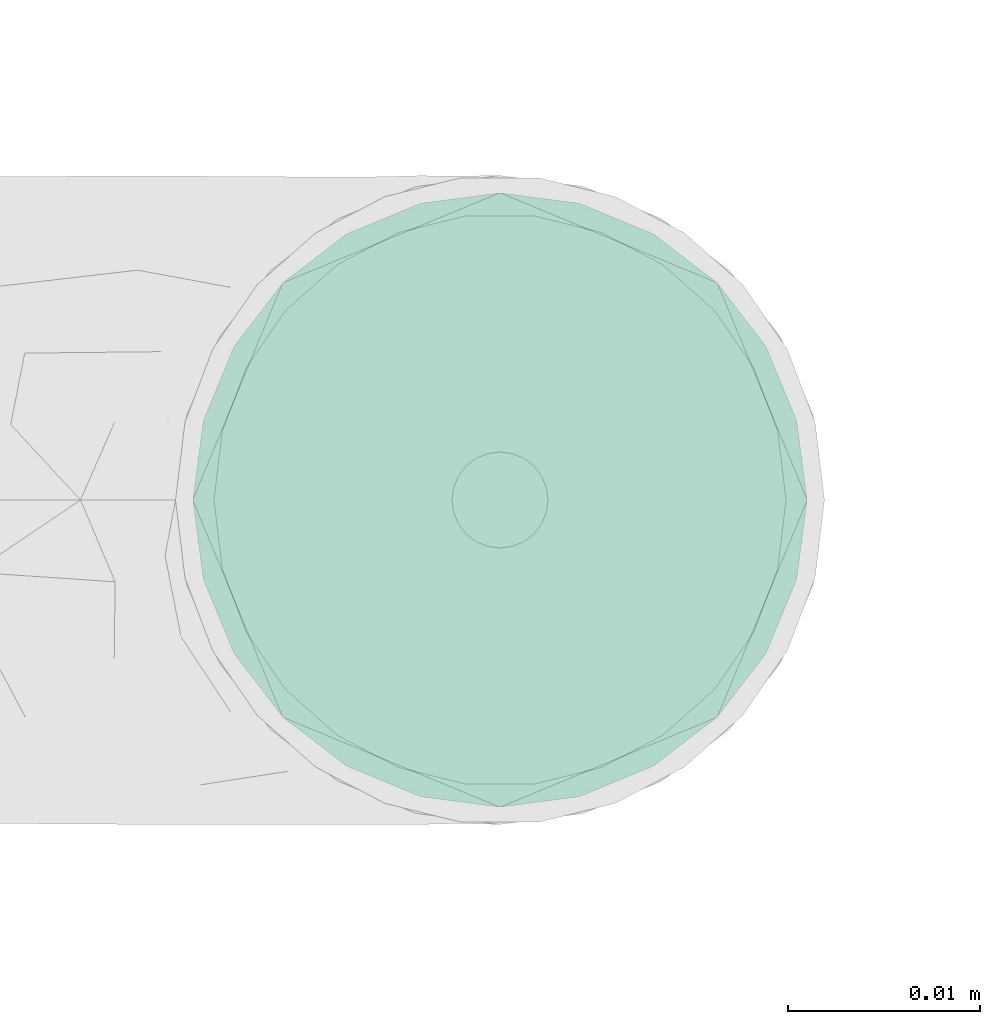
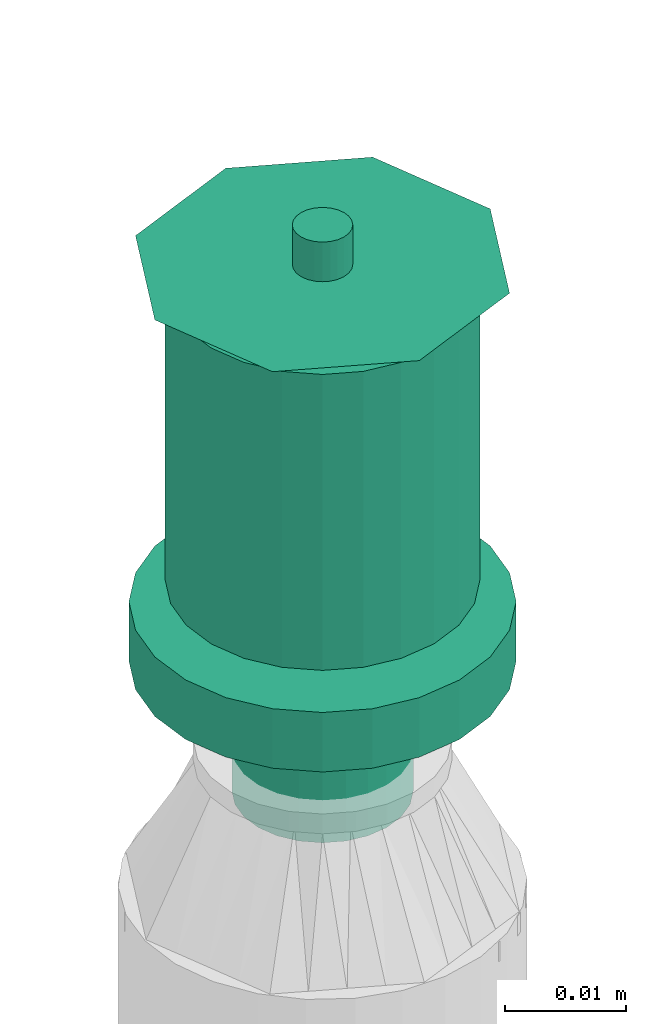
# One storey, part 107 of 157: 1 flow terminal.
"""IFC2X3 building model written with IfcOpenShell, lengths in millimetres."""

from ifc_helpers import new_model, entity, si_unit, converted_unit, derived_unit, direction, frame, origin_with_axes, place, context, subcontext, project, spatial, open_shell, surface_model, source, transform, mapped, type_object, element, save


model = new_model("IFC2X3")

# Units and contexts
model_context = context("Model", 3, precision=0.01, world=frame((0.0, 4.29681676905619e-09, 0.0)), true_north=direction((4.01073788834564e-13, 1.0)))
plan_context = context("Plan", 3, precision=0.01, world=frame((0.0, 4.29681676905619e-09, 0.0)), true_north=direction((4.01073788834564e-13, 1.0)))
body_context = subcontext(model_context, "Body", "Model", "MODEL_VIEW")
ifc_project = project(units=[converted_unit("PLANEANGLEUNIT", "DEGREE", entity("IfcPositiveLengthMeasure", 0.0174532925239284), si_unit("PLANEANGLEUNIT", "RADIAN"), dimensions=[0, 0, 0, 0, 0, 0, 0]), si_unit("AREAUNIT", "SQUARE_METRE"), si_unit("LENGTHUNIT", "METRE", prefix="MILLI"), si_unit("MASSUNIT", "GRAM", prefix="KILO"), si_unit("POWERUNIT", "WATT"), si_unit("PRESSUREUNIT", "PASCAL"), si_unit("FORCEUNIT", "NEWTON", prefix="KILO"), si_unit("ELECTRICCURRENTUNIT", "AMPERE"), si_unit("THERMODYNAMICTEMPERATUREUNIT", "DEGREE_CELSIUS"), si_unit("TIMEUNIT", "SECOND"), si_unit("VOLUMEUNIT", "CUBIC_METRE"), derived_unit("LINEARVELOCITYUNIT", [(si_unit("LENGTHUNIT", "METRE"), 1), (si_unit("TIMEUNIT", "SECOND"), -1)]), derived_unit("VOLUMETRICFLOWRATEUNIT", [(si_unit("VOLUMEUNIT", "CUBIC_METRE"), 1), (si_unit("TIMEUNIT", "SECOND"), -1)]), derived_unit("THERMALTRANSMITTANCEUNIT", [(si_unit("POWERUNIT", "WATT"), 1), (si_unit("THERMODYNAMICTEMPERATUREUNIT", "KELVIN"), -1), (si_unit("AREAUNIT", "SQUARE_METRE"), -1)])], contexts=[model_context, plan_context])

# Site, building, storey
site_placement = place(None, frame((0.0, -4.29681676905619e-09, 0.0), z_axis=(0.0, 0.0, 1.0), x_axis=(1.0, 0.0, 0.0)))
site = spatial("IfcSite", under=ifc_project, at=site_placement, CompositionType="ELEMENT")
building_placement = place(site_placement, frame((0.0, 4.29681676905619e-09, 0.0), z_axis=(0.0, 0.0, 1.0), x_axis=(1.0, 0.0, 0.0)))
building = spatial("IfcBuilding", under=site, at=building_placement, Name="mc-building", CompositionType="ELEMENT")
storey_placement = place(building_placement, frame((0.0, 0.0, 204000.0), z_axis=(0.0, 0.0, 1.0), x_axis=(1.0, 0.0, 0.0)))
storey = spatial("IfcBuildingStorey", under=building, at=storey_placement, Name="Nivå D", CompositionType="ELEMENT", Elevation=204000.0)

# Flow terminal
fire_suppression_terminal_type = type_object("IfcFireSuppressionTerminalType", Name="68DGR-STD-STÅENDE", PredefinedType="NOTDEFINED")
shared_shape = source(origin_with_axes(), body_context, "Body", "SurfaceModel", [
    surface_model("IfcShellBasedSurfaceModel", [(3.36465, -12.55704, 51.0), (6.5, -11.25833, 51.0), (9.19239, -9.19239, 51.0), (12.55704, -3.36465, 51.0), (-11.25833, -6.5, 51.0), (11.25833, -6.5, 51.0), (-13.0, 0.0, 51.0), (0.0, -13.0, 51.0), (-6.5, -11.25833, 51.0), (-3.36465, -12.55704, 51.0), (-9.19239, -9.19239, 51.0), (-12.55704, -3.36465, 51.0), (13.0, 0.0, 51.0), (12.55704, 3.36465, 51.0), (11.25833, 6.5, 51.0), (9.19239, 9.19239, 51.0), (6.5, 11.25833, 51.0), (3.36465, 12.55704, 51.0), (0.0, 13.0, 51.0), (-3.36465, 12.55704, 51.0), (-12.55704, 3.36465, 51.0), (-9.19239, 9.19239, 51.0), (-11.25833, 6.5, 51.0), (-6.5, 11.25833, 51.0), (0.0, 13.0, 21.14766), (3.36465, 12.55704, 21.14766), (6.5, 11.25833, 21.14766), (-3.36465, 12.55704, 21.14766), (9.19239, 9.19239, 21.14766), (11.25833, 6.5, 21.14766), (12.55704, 3.36465, 21.14766), (-12.55704, 3.36465, 21.14766), (-11.25833, -6.5, 21.14766), (-9.19239, 9.19239, 21.14766), (-6.5, 11.25833, 21.14766), (-11.25833, 6.5, 21.14766), (-13.0, 0.0, 21.14766), (12.55704, -3.36465, 21.14766), (9.19239, -9.19239, 21.14766), (11.25833, -6.5, 21.14766), (6.5, -11.25833, 21.14766), (3.36465, -12.55704, 21.14766), (-6.5, -11.25833, 21.14766), (-9.19239, -9.19239, 21.14766), (-12.55704, -3.36465, 21.14766), (0.0, -13.0, 21.14766), (-3.36465, -12.55704, 21.14766), (13.0, 0.0, 21.14766), (7.24444, -1.94114, 0.1), (1.94114, -7.24444, 0.1), (3.75, -6.49519, 0.1), (5.3033, -5.3033, 0.1), (-5.3033, -5.3033, 0.1), (6.49519, -3.75, 0.1), (5.3033, 5.3033, 0.1), (0.0, -7.5, 0.1), (-3.75, -6.49519, 0.1), (-1.94114, -7.24444, 0.1), (-7.24444, -1.94114, 0.1), (-6.49519, -3.75, 0.1), (-7.24444, 1.94114, 0.1), (7.5, 0.0, 0.1), (6.49519, 3.75, 0.1), (-6.49519, 3.75, 0.1), (1.94114, 7.24444, 0.1), (0.0, 7.5, 0.1), (3.75, 6.49519, 0.1), (-7.5, 0.0, 0.1), (-5.3033, 5.3033, 0.1), (-1.94114, 7.24444, 0.1), (-3.75, 6.49519, 0.1), (7.24444, 1.94114, 0.1), (1.94114, 7.24444, -0.1), (-6.49519, 3.75, -0.1), (0.0, 7.5, -0.1), (5.3033, 5.3033, -0.1), (3.75, 6.49519, -0.1), (6.49519, 3.75, -0.1), (7.24444, 1.94114, -0.1), (-1.94114, 7.24444, -0.1), (-5.3033, 5.3033, -0.1), (-3.75, 6.49519, -0.1), (-7.24444, 1.94114, -0.1), (-7.24444, -1.94114, -0.1), (-7.5, 0.0, -0.1), (7.5, 0.0, -0.1), (7.24444, -1.94114, -0.1), (-5.3033, -5.3033, -0.1), (1.94114, -7.24444, -0.1), (6.49519, -3.75, -0.1), (5.3033, -5.3033, -0.1), (3.75, -6.49519, -0.1), (-6.49519, -3.75, -0.1), (-3.75, -6.49519, -0.1), (0.0, -7.5, -0.1), (-1.94114, -7.24444, -0.1), (0.0, -2.5, 51.0), (-2.5, 0.0, 51.0), (0.0, 2.5, 51.0), (2.5, 0.0, 51.0), (0.0, -16.0, 53.0), (11.31371, -11.31371, 53.0), (-11.31371, -11.31371, 53.0), (-16.0, 0.0, 53.0), (16.0, 0.0, 53.0), (11.31371, 11.31371, 53.0), (0.0, 16.0, 53.0), (-11.31371, 11.31371, 53.0), (1.25, -2.16506, 57.0), (0.0, -2.5, 57.0), (0.64705, -2.41481, 57.0), (2.41481, -0.64705, 57.0), (1.76777, -1.76777, 57.0), (-2.41481, -0.64705, 57.0), (-2.5, 0.0, 57.0), (2.16506, -1.25, 57.0), (-1.25, -2.16506, 57.0), (-0.64705, -2.41481, 57.0), (-1.76777, -1.76777, 57.0), (-2.16506, -1.25, 57.0), (2.5, 0.0, 57.0), (2.41481, 0.64705, 57.0), (2.16506, 1.25, 57.0), (1.76777, 1.76777, 57.0), (0.64705, 2.41481, 57.0), (1.25, 2.16506, 57.0), (-1.76777, 1.76777, 57.0), (0.0, 2.5, 57.0), (-2.16506, 1.25, 57.0), (-2.41481, 0.64705, 57.0), (-0.64705, 2.41481, 57.0), (-1.25, 2.16506, 57.0), (1.25, 2.16506, 51.0), (1.76777, 1.76777, 51.0), (1.15, 1.99186, 51.0), (0.59528, 2.22163, 51.0), (0.64705, 2.41481, 51.0), (0.0, 2.3, 51.0), (1.62635, 1.62635, 51.0), (2.41481, 0.64705, 51.0), (2.3, 0.0, 51.0), (2.22163, 0.59528, 51.0), (2.16506, 1.25, 51.0), (1.99186, 1.15, 51.0), (-0.59528, 2.22163, 51.0), (-0.64705, 2.41481, 51.0), (-1.15, 1.99186, 51.0), (-1.76777, 1.76777, 51.0), (-1.25, 2.16506, 51.0), (-1.62635, 1.62635, 51.0), (-1.99186, 1.15, 51.0), (-2.16506, 1.25, 51.0), (-2.22163, 0.59528, 51.0), (-2.41481, 0.64705, 51.0), (-2.3, 0.0, 51.0), (2.41481, -0.64705, 51.0), (2.22163, -0.59528, 51.0), (1.99186, -1.15, 51.0), (2.16506, -1.25, 51.0), (1.62635, -1.62635, 51.0), (1.76777, -1.76777, 51.0), (1.25, -2.16506, 51.0), (1.15, -1.99186, 51.0), (0.59528, -2.22163, 51.0), (0.64705, -2.41481, 51.0), (0.0, -2.3, 51.0), (-2.16506, -1.25, 51.0), (-1.99186, -1.15, 51.0), (-1.76777, -1.76777, 51.0), (-1.62635, -1.62635, 51.0), (-2.41481, -0.64705, 51.0), (-2.22163, -0.59528, 51.0), (-0.59528, -2.22163, 51.0), (-0.64705, -2.41481, 51.0), (-1.15, -1.99186, 51.0), (-1.25, -2.16506, 51.0), (1.62635, -1.62635, 56.8), (1.15, -1.99186, 56.8), (0.59528, -2.22163, 56.8), (0.0, -2.3, 56.8), (2.22163, 0.59528, 56.8), (1.99186, -1.15, 56.8), (2.22163, -0.59528, 56.8), (-0.59528, -2.22163, 56.8), (-1.15, -1.99186, 56.8), (-1.62635, -1.62635, 56.8), (-1.99186, -1.15, 56.8), (-2.22163, -0.59528, 56.8), (-1.99186, 1.15, 56.8), (2.3, 0.0, 56.8), (1.62635, 1.62635, 56.8), (1.99186, 1.15, 56.8), (1.15, 1.99186, 56.8), (0.0, 2.3, 56.8), (0.59528, 2.22163, 56.8), (-2.22163, 0.59528, 56.8), (-2.3, 0.0, 56.8), (-1.15, 1.99186, 56.8), (-0.59528, 2.22163, 56.8), (-1.62635, 1.62635, 56.8), (4.1411, -15.45481, 19.0), (8.0, -13.85641, 19.0), (11.31371, -11.31371, 19.0), (-8.0, -13.85641, 19.0), (15.45481, -4.1411, 19.0), (16.0, 0.0, 19.0), (13.85641, -8.0, 19.0), (0.0, -16.0, 19.0), (-4.1411, -15.45481, 19.0), (-13.85641, -8.0, 19.0), (-11.31371, -11.31371, 19.0), (-15.45481, -4.1411, 19.0), (15.45481, 4.1411, 19.0), (13.85641, 8.0, 19.0), (11.31371, 11.31371, 19.0), (-4.1411, 15.45481, 19.0), (8.0, 13.85641, 19.0), (4.1411, 15.45481, 19.0), (0.0, 16.0, 19.0), (-13.85641, 8.0, 19.0), (-15.45481, 4.1411, 19.0), (-16.0, 0.0, 19.0), (-11.31371, 11.31371, 19.0), (-8.0, 13.85641, 19.0), (0.0, 16.0, 13.0), (4.1411, 15.45481, 13.0), (8.0, 13.85641, 13.0), (-4.1411, 15.45481, 13.0), (11.31371, 11.31371, 13.0), (13.85641, 8.0, 13.0), (15.45481, 4.1411, 13.0), (-15.45481, -4.1411, 13.0), (-11.31371, 11.31371, 13.0), (-8.0, 13.85641, 13.0), (-13.85641, 8.0, 13.0), (-15.45481, 4.1411, 13.0), (-16.0, 0.0, 13.0), (4.1411, -15.45481, 13.0), (16.0, 0.0, 13.0), (15.45481, -4.1411, 13.0), (13.85641, -8.0, 13.0), (11.31371, -11.31371, 13.0), (8.0, -13.85641, 13.0), (-8.0, -13.85641, 13.0), (-13.85641, -8.0, 13.0), (-11.31371, -11.31371, 13.0), (0.0, -16.0, 13.0), (-4.1411, -15.45481, 13.0), (7.24444, -1.94114, 13.0), (1.94114, -7.24444, 13.0), (3.75, -6.49519, 13.0), (5.3033, -5.3033, 13.0), (-5.3033, -5.3033, 13.0), (6.49519, -3.75, 13.0), (5.3033, 5.3033, 13.0), (0.0, -7.5, 13.0), (-3.75, -6.49519, 13.0), (-1.94114, -7.24444, 13.0), (-7.24444, -1.94114, 13.0), (-6.49519, -3.75, 13.0), (-7.24444, 1.94114, 13.0), (7.5, 0.0, 13.0), (6.49519, 3.75, 13.0), (-6.49519, 3.75, 13.0), (1.94114, 7.24444, 13.0), (0.0, 7.5, 13.0), (3.75, 6.49519, 13.0), (-7.5, 0.0, 13.0), (-5.3033, 5.3033, 13.0), (-1.94114, 7.24444, 13.0), (-3.75, 6.49519, 13.0), (7.24444, 1.94114, 13.0), (3.75, 6.49519, 0.0), (5.3033, 5.3033, 0.0), (3.65, 6.32199, 0.0), (1.88938, 7.05126, 0.0), (0.0, 7.3, 0.0), (1.94114, 7.24444, 0.0), (0.0, 7.5, 0.0), (5.16188, 5.16188, 0.0), (7.24444, 1.94114, 0.0), (7.3, 0.0, 0.0), (7.05126, 1.88938, 0.0), (7.5, 0.0, 0.0), (6.49519, 3.75, 0.0), (6.32199, 3.65, 0.0), (-1.88938, 7.05126, 0.0), (-1.94114, 7.24444, 0.0), (-3.65, 6.32199, 0.0), (-5.3033, 5.3033, 0.0), (-3.75, 6.49519, 0.0), (-5.16188, 5.16188, 0.0), (-6.32199, 3.65, 0.0), (-6.49519, 3.75, 0.0), (-7.05126, 1.88938, 0.0), (-7.24444, 1.94114, 0.0), (-7.3, 0.0, 0.0), (-7.5, 0.0, 0.0), (7.24444, -1.94114, 0.0), (7.05126, -1.88938, 0.0), (6.32199, -3.65, 0.0), (6.49519, -3.75, 0.0), (5.16188, -5.16188, 0.0), (5.3033, -5.3033, 0.0), (3.75, -6.49519, 0.0), (3.65, -6.32199, 0.0), (1.88938, -7.05126, 0.0), (1.94114, -7.24444, 0.0), (0.0, -7.3, 0.0), (0.0, -7.5, 0.0), (-6.49519, -3.75, 0.0), (-6.32199, -3.65, 0.0), (-5.3033, -5.3033, 0.0), (-5.16188, -5.16188, 0.0), (-7.24444, -1.94114, 0.0), (-7.05126, -1.88938, 0.0), (-1.88938, -7.05126, 0.0), (-1.94114, -7.24444, 0.0), (-3.65, -6.32199, 0.0), (-3.75, -6.49519, 0.0), (1.88938, -7.05126, 12.8), (0.0, -7.3, 12.8), (3.65, -6.32199, 12.8), (5.16188, -5.16188, 12.8), (6.32199, -3.65, 12.8), (7.05126, 1.88938, 12.8), (7.05126, -1.88938, 12.8), (-5.16188, -5.16188, 12.8), (-1.88938, -7.05126, 12.8), (-3.65, -6.32199, 12.8), (-6.32199, -3.65, 12.8), (-7.05126, -1.88938, 12.8), (0.0, 7.3, 12.8), (7.3, 0.0, 12.8), (6.32199, 3.65, 12.8), (5.16188, 5.16188, 12.8), (3.65, 6.32199, 12.8), (1.88938, 7.05126, 12.8), (-6.32199, 3.65, 12.8), (-7.05126, 1.88938, 12.8), (-7.3, 0.0, 12.8), (-3.65, 6.32199, 12.8), (-1.88938, 7.05126, 12.8), (-5.16188, 5.16188, 12.8)], [open_shell([[[0, 1, 2]], [[0, 2, 3]], [[0, 3, 4]], [[3, 2, 5]], [[6, 4, 3]], [[7, 8, 9]], [[7, 0, 8]], [[8, 4, 10]], [[0, 4, 8]], [[4, 6, 11]], [[6, 3, 12]], [[13, 14, 15]], [[6, 13, 15]], [[16, 17, 18]], [[15, 16, 19]], [[18, 19, 16]], [[20, 21, 22]], [[20, 6, 15]], [[21, 19, 23]], [[19, 21, 20]], [[15, 19, 20]], [[13, 6, 12]], [[24, 25, 26]], [[27, 24, 26]], [[28, 29, 30]], [[26, 28, 31]], [[28, 32, 31]], [[27, 33, 34]], [[33, 27, 31]], [[33, 31, 35]], [[27, 26, 31]], [[31, 32, 36]], [[32, 28, 30]], [[32, 30, 37]], [[38, 37, 39]], [[38, 40, 41]], [[38, 41, 37]], [[32, 37, 41]], [[32, 42, 43]], [[44, 36, 32]], [[42, 45, 46]], [[42, 32, 41]], [[45, 42, 41]], [[30, 47, 37]], [[4, 32, 43]], [[8, 42, 46]], [[43, 42, 10]], [[9, 46, 45]], [[36, 11, 6]], [[11, 36, 44]], [[11, 44, 4]], [[44, 32, 4]], [[43, 10, 4]], [[8, 10, 42]], [[46, 9, 8]], [[45, 7, 9]], [[0, 41, 40]], [[38, 1, 40]], [[5, 39, 37]], [[38, 39, 2]], [[3, 37, 47]], [[41, 0, 7]], [[40, 1, 0]], [[38, 2, 1]], [[39, 5, 2]], [[3, 5, 37]], [[47, 12, 3]], [[41, 7, 45]], [[30, 13, 47]], [[29, 14, 30]], [[25, 24, 17]], [[15, 29, 28]], [[30, 14, 13]], [[13, 12, 47]], [[16, 26, 17]], [[16, 15, 28]], [[26, 25, 17]], [[15, 14, 29]], [[28, 26, 16]], [[24, 18, 17]], [[19, 27, 34]], [[33, 23, 34]], [[22, 35, 31]], [[33, 35, 21]], [[20, 31, 36]], [[27, 19, 18]], [[34, 23, 19]], [[33, 21, 23]], [[35, 22, 21]], [[20, 22, 31]], [[36, 6, 20]], [[27, 18, 24]], [[48, 49, 50]], [[48, 50, 51]], [[49, 48, 52]], [[48, 51, 53]], [[54, 52, 48]], [[55, 56, 57]], [[56, 55, 52]], [[52, 58, 59]], [[52, 55, 49]], [[52, 60, 58]], [[54, 48, 61]], [[62, 54, 61]], [[54, 63, 52]], [[64, 65, 54]], [[64, 54, 66]], [[63, 54, 65]], [[63, 60, 52]], [[67, 58, 60]], [[68, 69, 70]], [[69, 68, 63]], [[69, 63, 65]], [[71, 62, 61]], [[72, 73, 74]], [[75, 72, 76]], [[75, 77, 78]], [[72, 75, 73]], [[78, 73, 75]], [[79, 80, 81]], [[80, 79, 73]], [[74, 73, 79]], [[78, 82, 73]], [[82, 83, 84]], [[82, 78, 85]], [[86, 87, 85]], [[88, 86, 89]], [[90, 91, 88]], [[90, 88, 89]], [[87, 86, 88]], [[83, 87, 92]], [[83, 85, 87]], [[93, 94, 95]], [[94, 93, 87]], [[88, 94, 87]], [[85, 83, 82]], [[83, 58, 84]], [[92, 59, 83]], [[56, 87, 93]], [[92, 87, 52]], [[57, 93, 95]], [[83, 59, 58]], [[58, 67, 84]], [[57, 56, 93]], [[52, 87, 56]], [[52, 59, 92]], [[55, 57, 95]], [[95, 94, 55]], [[88, 49, 94]], [[91, 50, 88]], [[53, 90, 89]], [[91, 90, 51]], [[48, 89, 86]], [[91, 51, 50]], [[50, 49, 88]], [[61, 48, 86]], [[53, 89, 48]], [[53, 51, 90]], [[85, 61, 86]], [[94, 49, 55]], [[78, 71, 85]], [[77, 62, 78]], [[66, 75, 76]], [[77, 75, 54]], [[64, 76, 72]], [[78, 62, 71]], [[71, 61, 85]], [[64, 66, 76]], [[54, 75, 66]], [[54, 62, 77]], [[65, 64, 72]], [[72, 74, 65]], [[79, 69, 74]], [[81, 70, 79]], [[63, 80, 73]], [[81, 80, 68]], [[60, 73, 82]], [[81, 68, 70]], [[70, 69, 79]], [[67, 60, 82]], [[63, 73, 60]], [[63, 68, 80]], [[84, 67, 82]], [[74, 69, 65]], [[96, 97, 98]], [[98, 99, 96]], [[100, 101, 102]], [[103, 102, 101]], [[101, 104, 103]], [[104, 105, 106]], [[107, 103, 106]], [[106, 103, 104]], [[99, 98, 105]], [[105, 104, 99]], [[98, 106, 105]], [[98, 107, 106]], [[107, 98, 97]], [[103, 107, 97]], [[97, 96, 102]], [[102, 103, 97]], [[96, 100, 102]], [[96, 101, 100]], [[101, 96, 99]], [[104, 101, 99]], [[108, 109, 110]], [[111, 108, 112]], [[113, 108, 114]], [[111, 112, 115]], [[108, 111, 114]], [[109, 116, 117]], [[116, 109, 118]], [[118, 113, 119]], [[118, 109, 108]], [[108, 113, 118]], [[111, 120, 114]], [[121, 122, 123]], [[114, 121, 123]], [[114, 123, 124]], [[124, 123, 125]], [[126, 124, 127]], [[124, 128, 129]], [[129, 114, 124]], [[126, 130, 131]], [[128, 124, 126]], [[130, 126, 127]], [[121, 114, 120]], [[132, 133, 134]], [[132, 134, 135]], [[136, 135, 137]], [[135, 136, 132]], [[136, 137, 98]], [[134, 133, 138]], [[139, 140, 141]], [[140, 139, 99]], [[139, 141, 142]], [[138, 142, 143]], [[142, 138, 133]], [[143, 142, 141]], [[98, 144, 145]], [[98, 137, 144]], [[145, 144, 146]], [[147, 148, 149]], [[146, 148, 145]], [[149, 148, 146]], [[150, 151, 147]], [[151, 150, 152]], [[150, 147, 149]], [[153, 152, 154]], [[152, 153, 151]], [[153, 154, 97]], [[99, 155, 156]], [[156, 155, 157]], [[157, 158, 159]], [[158, 157, 155]], [[159, 158, 160]], [[160, 161, 162]], [[162, 161, 163]], [[163, 164, 165]], [[164, 163, 161]], [[165, 164, 96]], [[162, 159, 160]], [[166, 167, 168]], [[168, 167, 169]], [[167, 166, 170]], [[97, 171, 170]], [[170, 171, 167]], [[97, 154, 171]], [[172, 96, 173]], [[172, 173, 174]], [[169, 175, 168]], [[175, 169, 174]], [[175, 174, 173]], [[165, 96, 172]], [[156, 140, 99]], [[170, 113, 97]], [[166, 119, 170]], [[116, 168, 175]], [[166, 168, 118]], [[117, 175, 173]], [[170, 119, 113]], [[113, 114, 97]], [[117, 116, 175]], [[118, 168, 116]], [[118, 119, 166]], [[109, 117, 173]], [[173, 96, 109]], [[164, 110, 96]], [[161, 108, 164]], [[115, 160, 158]], [[161, 160, 112]], [[111, 158, 155]], [[161, 112, 108]], [[108, 110, 164]], [[120, 111, 155]], [[115, 158, 111]], [[115, 112, 160]], [[99, 120, 155]], [[96, 110, 109]], [[139, 121, 99]], [[142, 122, 139]], [[125, 133, 132]], [[142, 133, 123]], [[124, 132, 136]], [[139, 122, 121]], [[121, 120, 99]], [[124, 125, 132]], [[123, 133, 125]], [[123, 122, 142]], [[127, 124, 136]], [[136, 98, 127]], [[145, 130, 98]], [[148, 131, 145]], [[128, 147, 151]], [[148, 147, 126]], [[129, 151, 153]], [[148, 126, 131]], [[131, 130, 145]], [[114, 129, 153]], [[128, 151, 129]], [[128, 126, 147]], [[97, 114, 153]], [[98, 130, 127]], [[176, 177, 178]], [[176, 178, 179]], [[180, 176, 179]], [[181, 176, 182]], [[180, 182, 176]], [[183, 184, 179]], [[185, 179, 184]], [[186, 187, 185]], [[185, 187, 188]], [[179, 185, 188]], [[189, 182, 180]], [[190, 191, 180]], [[192, 190, 180]], [[193, 194, 192]], [[180, 193, 192]], [[188, 193, 180]], [[195, 188, 196]], [[196, 188, 187]], [[197, 198, 199]], [[188, 199, 198]], [[188, 198, 193]], [[180, 179, 188]], [[154, 187, 171]], [[171, 186, 167]], [[174, 169, 184]], [[185, 169, 167]], [[172, 174, 183]], [[187, 186, 171]], [[154, 196, 187]], [[174, 184, 183]], [[184, 169, 185]], [[167, 186, 185]], [[172, 183, 179]], [[179, 165, 172]], [[165, 178, 163]], [[163, 177, 162]], [[157, 159, 181]], [[176, 159, 162]], [[156, 157, 182]], [[177, 176, 162]], [[163, 178, 177]], [[156, 182, 189]], [[182, 157, 181]], [[159, 176, 181]], [[156, 189, 140]], [[179, 178, 165]], [[140, 180, 141]], [[141, 191, 143]], [[134, 138, 192]], [[190, 138, 143]], [[135, 134, 194]], [[180, 191, 141]], [[140, 189, 180]], [[134, 192, 194]], [[192, 138, 190]], [[143, 191, 190]], [[135, 194, 193]], [[193, 137, 135]], [[137, 198, 144]], [[144, 197, 146]], [[150, 149, 188]], [[199, 149, 146]], [[152, 150, 195]], [[197, 199, 146]], [[144, 198, 197]], [[152, 195, 196]], [[195, 150, 188]], [[149, 199, 188]], [[152, 196, 154]], [[193, 198, 137]], [[200, 201, 202]], [[203, 200, 202]], [[204, 205, 202]], [[204, 202, 206]], [[203, 202, 205]], [[207, 203, 208]], [[207, 200, 203]], [[203, 209, 210]], [[209, 203, 211]], [[205, 211, 203]], [[205, 212, 211]], [[212, 213, 214]], [[215, 212, 214]], [[216, 217, 218]], [[214, 216, 215]], [[218, 215, 216]], [[211, 219, 220]], [[221, 211, 220]], [[222, 215, 223]], [[215, 222, 219]], [[219, 211, 215]], [[211, 212, 215]], [[224, 225, 226]], [[227, 224, 226]], [[228, 229, 230]], [[227, 226, 228]], [[227, 228, 231]], [[227, 232, 233]], [[232, 227, 234]], [[234, 231, 235]], [[231, 234, 227]], [[235, 231, 236]], [[228, 230, 231]], [[237, 238, 239]], [[237, 239, 240]], [[241, 242, 237]], [[241, 237, 240]], [[238, 237, 243]], [[244, 243, 245]], [[243, 244, 231]], [[243, 246, 247]], [[243, 231, 238]], [[237, 246, 243]], [[238, 231, 230]], [[231, 211, 236]], [[244, 209, 231]], [[203, 245, 243]], [[244, 245, 210]], [[208, 243, 247]], [[231, 209, 211]], [[211, 221, 236]], [[208, 203, 243]], [[210, 245, 203]], [[210, 209, 244]], [[207, 208, 247]], [[247, 246, 207]], [[237, 200, 246]], [[242, 201, 237]], [[206, 241, 240]], [[242, 241, 202]], [[204, 240, 239]], [[242, 202, 201]], [[201, 200, 237]], [[205, 204, 239]], [[206, 240, 204]], [[206, 202, 241]], [[238, 205, 239]], [[246, 200, 207]], [[230, 212, 238]], [[229, 213, 230]], [[216, 228, 226]], [[229, 228, 214]], [[217, 226, 225]], [[230, 213, 212]], [[212, 205, 238]], [[217, 216, 226]], [[214, 228, 216]], [[214, 213, 229]], [[218, 217, 225]], [[225, 224, 218]], [[227, 215, 224]], [[233, 223, 227]], [[219, 232, 234]], [[233, 232, 222]], [[220, 234, 235]], [[233, 222, 223]], [[223, 215, 227]], [[221, 220, 235]], [[219, 234, 220]], [[219, 222, 232]], [[236, 221, 235]], [[224, 215, 218]], [[248, 249, 250]], [[248, 250, 251]], [[249, 248, 252]], [[248, 251, 253]], [[254, 252, 248]], [[255, 256, 257]], [[256, 255, 252]], [[252, 258, 259]], [[252, 255, 249]], [[252, 260, 258]], [[254, 248, 261]], [[262, 254, 261]], [[254, 263, 252]], [[264, 265, 254]], [[264, 254, 266]], [[263, 254, 265]], [[263, 260, 252]], [[267, 258, 260]], [[268, 269, 270]], [[269, 268, 263]], [[269, 263, 265]], [[271, 262, 261]], [[272, 273, 274]], [[272, 274, 275]], [[276, 277, 275]], [[277, 276, 278]], [[275, 277, 272]], [[274, 273, 279]], [[280, 281, 282]], [[281, 280, 283]], [[280, 282, 284]], [[279, 284, 285]], [[284, 279, 273]], [[285, 284, 282]], [[278, 286, 287]], [[287, 286, 288]], [[289, 290, 291]], [[288, 290, 287]], [[288, 291, 290]], [[278, 276, 286]], [[292, 293, 289]], [[293, 292, 294]], [[292, 289, 291]], [[295, 294, 296]], [[294, 295, 293]], [[295, 296, 297]], [[283, 298, 299]], [[299, 298, 300]], [[300, 301, 302]], [[301, 300, 298]], [[302, 301, 303]], [[303, 304, 305]], [[305, 304, 306]], [[306, 307, 308]], [[307, 306, 304]], [[308, 307, 309]], [[305, 302, 303]], [[310, 311, 312]], [[312, 311, 313]], [[311, 310, 314]], [[297, 315, 314]], [[314, 315, 311]], [[297, 296, 315]], [[316, 309, 317]], [[316, 317, 318]], [[313, 319, 312]], [[313, 318, 319]], [[319, 318, 317]], [[308, 309, 316]], [[299, 281, 283]], [[314, 258, 297]], [[310, 259, 314]], [[256, 312, 319]], [[310, 312, 252]], [[257, 319, 317]], [[314, 259, 258]], [[258, 267, 297]], [[257, 256, 319]], [[252, 312, 256]], [[252, 259, 310]], [[255, 257, 317]], [[317, 309, 255]], [[307, 249, 309]], [[304, 250, 307]], [[253, 303, 301]], [[304, 303, 251]], [[248, 301, 298]], [[304, 251, 250]], [[250, 249, 307]], [[261, 248, 298]], [[253, 301, 248]], [[253, 251, 303]], [[283, 261, 298]], [[309, 249, 255]], [[280, 271, 283]], [[284, 262, 280]], [[266, 273, 272]], [[284, 273, 254]], [[264, 272, 277]], [[280, 262, 271]], [[271, 261, 283]], [[264, 266, 272]], [[254, 273, 266]], [[254, 262, 284]], [[265, 264, 277]], [[277, 278, 265]], [[287, 269, 278]], [[290, 270, 287]], [[263, 289, 293]], [[290, 289, 268]], [[260, 293, 295]], [[290, 268, 270]], [[270, 269, 287]], [[267, 260, 295]], [[263, 293, 260]], [[263, 268, 289]], [[297, 267, 295]], [[278, 269, 265]], [[320, 321, 322]], [[323, 322, 324]], [[325, 326, 322]], [[324, 322, 326]], [[322, 327, 325]], [[328, 329, 321]], [[327, 321, 329]], [[330, 331, 327]], [[322, 321, 327]], [[331, 332, 327]], [[326, 325, 333]], [[334, 325, 332]], [[335, 334, 336]], [[332, 337, 336]], [[334, 332, 336]], [[331, 338, 332]], [[339, 338, 340]], [[340, 338, 331]], [[341, 342, 343]], [[332, 338, 343]], [[332, 343, 342]], [[332, 325, 327]], [[296, 331, 315]], [[315, 330, 311]], [[318, 313, 329]], [[327, 313, 311]], [[316, 318, 328]], [[331, 330, 315]], [[296, 340, 331]], [[318, 329, 328]], [[329, 313, 327]], [[311, 330, 327]], [[316, 328, 321]], [[321, 308, 316]], [[308, 320, 306]], [[306, 322, 305]], [[300, 302, 324]], [[323, 302, 305]], [[299, 300, 326]], [[322, 323, 305]], [[306, 320, 322]], [[299, 326, 333]], [[326, 300, 324]], [[302, 323, 324]], [[299, 333, 281]], [[321, 320, 308]], [[281, 325, 282]], [[282, 334, 285]], [[274, 279, 336]], [[335, 279, 285]], [[275, 274, 337]], [[325, 334, 282]], [[281, 333, 325]], [[274, 336, 337]], [[336, 279, 335]], [[285, 334, 335]], [[275, 337, 332]], [[332, 276, 275]], [[276, 342, 286]], [[286, 341, 288]], [[292, 291, 338]], [[343, 291, 288]], [[294, 292, 339]], [[341, 343, 288]], [[286, 342, 341]], [[294, 339, 340]], [[339, 292, 338]], [[291, 343, 338]], [[294, 340, 296]], [[332, 342, 276]]])]),
])
flow_terminal_placement = place(storey_placement, frame((531240.35, 413380.00018, 3169.5), z_axis=(0.0, 0.0, 1.0), x_axis=(1.0, 0.0, 0.0)))
element("IfcFlowTerminal", 1, at=flow_terminal_placement, inside=storey, type_object=fire_suppression_terminal_type, Name="68DGR-STD-STÅENDE", context=body_context, shape_type="MappedRepresentation", body=[
    mapped(shared_shape, transform((0.0, 0.0, 0.0), scale=1.0)),
])

save(model, "model.ifc")
